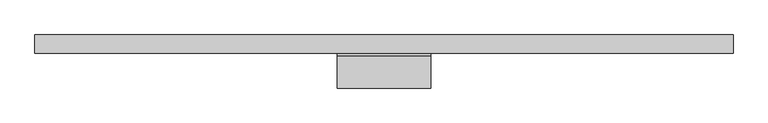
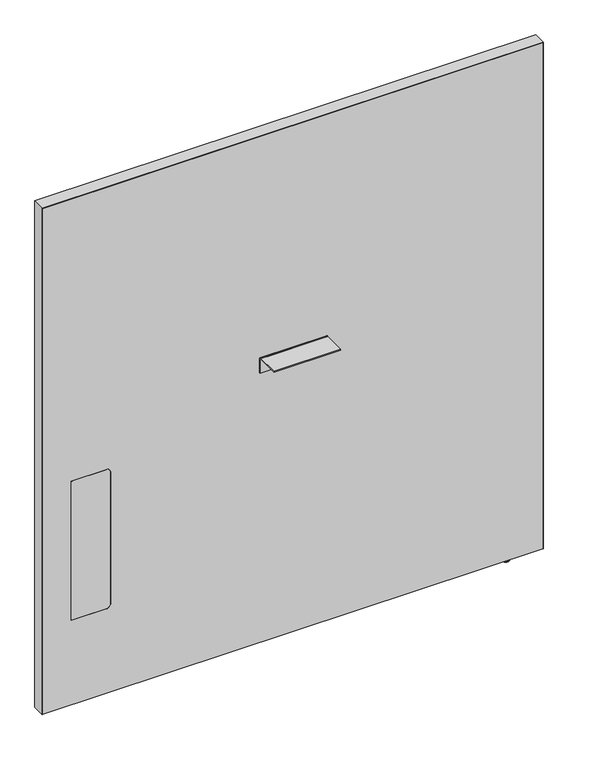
"""IFC4 building model written with IfcOpenShell, lengths in millimetres: furniture geometry, Steelcase - Answer Solution - Boundary Screen - Straight - Single Sided : 48H x 45W."""

from ifc_helpers import new_model, si_unit, point, frame, frame_2d, origin, place, context, project, spatial, polyline, circle_curve, ellipse_curve, trimmed, segment, composite_curve, outline, extrude, source, transform, mapped, element, save
from ifc_brep_helpers import plane_surface, cylinder_surface, revolved_surface, advanced_brep


def furniture_494dc55a(model_context):
    return source(origin(), model_context, "Body", "SolidModel", [
        extrude(outline(composite_curve([segment(polyline([(-86.8398151, 696.4680019), (-86.8398151, 698.5), (-34.9450855, 698.5)]), True, "CONTINUOUS"), segment(trimmed(circle_curve(frame_2d((-34.9450855, 693.2447477)), 5.2552523), [point((-34.9450855, 698.5))], [point((-29.6898332, 693.2447477))], False, "CARTESIAN"), True, "CONTINUOUS"), segment(polyline([(-29.6898332, 693.2447477), (-29.6898332, 660.4), (-31.7218162, 660.4), (-31.7218162, 693.0058743)]), True, "CONTINUOUS"), segment(trimmed(circle_curve(frame_2d((-35.1839438, 693.0058743)), 3.4621276), [point((-31.7218162, 693.0058743))], [point((-35.1839438, 696.4680019))], True, "CARTESIAN"), True, "CONTINUOUS"), segment(polyline([(-35.1839438, 696.4680019), (-86.8398151, 696.4680019)]), True, "CONTINUOUS")], self_intersect=False)), frame((-151.1808593, 0.0, 0.0), z_axis=(1.0, 0.0, 0.0), x_axis=(0.0, 1.0, 0.0)), (0.0, 0.0, 1.0), 152.4000969),
        advanced_brep(
        [(419.3286488, -23.7588726, 9.9059849), (419.3286488, -5.9309607, 9.9059849), (419.3286488, -14.8449166, 9.9059849), (419.3286488, -23.7588726, 2.9673238), (419.3286488, -5.9309607, 2.9673238), (419.3286488, -22.7915354, 2.9673238), (419.3286488, -6.8982978, 2.9673238), (419.3286488, -22.7915354, 1.6569081), (419.3286488, -6.8982978, 1.6569081), (419.3286488, -21.1346274, 0.0), (419.3286488, -8.5552059, 0.0), (419.3286488, -14.8449166, 0.0)],
        [
            (0, 1, circle_curve(frame((419.3286488, -14.8449166, 9.9059849), z_axis=(0.0, 0.0, 1.0), x_axis=(0.0, 1.0, 0.0)), 8.913956)),
            (1, 2),
            (2, 0),
            (1, 0, circle_curve(frame((419.3286488, -14.8449166, 9.9059849), z_axis=(0.0, 0.0, 1.0), x_axis=(0.0, 1.0, 0.0)), 8.913956)),
            (3, 4, circle_curve(frame((419.3286488, -14.8449166, 2.9673238), z_axis=(0.0, 0.0, 1.0), x_axis=(0.0, 1.0, 0.0)), 8.913956)),
            (4, 1),
            (0, 3),
            (4, 3, circle_curve(frame((419.3286488, -14.8449166, 2.9673238), z_axis=(0.0, 0.0, 1.0), x_axis=(0.0, 1.0, 0.0)), 8.913956)),
            (5, 6, circle_curve(frame((419.3286488, -14.8449166, 2.9673238), z_axis=(0.0, 0.0, 1.0), x_axis=(0.0, 1.0, 0.0)), 7.9466188)),
            (6, 4),
            (3, 5),
            (6, 5, circle_curve(frame((419.3286488, -14.8449166, 2.9673238), z_axis=(0.0, 0.0, 1.0), x_axis=(0.0, 1.0, 0.0)), 7.9466188)),
            (7, 8, circle_curve(frame((419.3286488, -14.8449166, 1.6569081), z_axis=(0.0, 0.0, 1.0), x_axis=(0.0, 1.0, 0.0)), 7.9466188)),
            (8, 6),
            (5, 7),
            (8, 7, circle_curve(frame((419.3286488, -14.8449166, 1.6569081), z_axis=(0.0, 0.0, 1.0), x_axis=(0.0, 1.0, 0.0)), 7.9466188)),
            (9, 10, circle_curve(frame((419.3286488, -14.8449166, 0.0), z_axis=(0.0, 0.0, 1.0), x_axis=(0.0, 1.0, 0.0)), 6.2897107)),
            (10, 8, circle_curve(frame((419.3286488, -8.5552059, 1.6569081), z_axis=(1.0, 0.0, 0.0), x_axis=(0.0, 1.0, 0.0)), 1.6569081)),
            (7, 9, circle_curve(frame((419.3286488, -21.1346274, 1.6569081), z_axis=(1.0, 0.0, 0.0), x_axis=(0.0, -1.0, 0.0)), 1.6569081)),
            (10, 9, circle_curve(frame((419.3286488, -14.8449166, 0.0), z_axis=(0.0, 0.0, 1.0), x_axis=(0.0, 1.0, 0.0)), 6.2897107)),
            (11, 10),
            (9, 11),
        ],
        [
            plane_surface(frame((419.3286488, -14.8449166, 9.9059849), z_axis=(0.0, 0.0, 1.0), x_axis=(0.0, 1.0, 0.0))),
            cylinder_surface(frame((419.3286488, -14.8449166, 9.9059849), z_axis=(0.0, 0.0, -1.0), x_axis=(0.0, 1.0, 0.0)), 8.913956),
            plane_surface(frame((419.3286488, -14.8449166, 2.9673238), z_axis=(0.0, 0.0, -1.0), x_axis=(0.0, 1.0, 0.0))),
            cylinder_surface(frame((419.3286488, -14.8449166, 9.9059849), z_axis=(0.0, 0.0, -1.0), x_axis=(0.0, 1.0, 0.0)), 7.9466188),
            revolved_surface(trimmed(ellipse_curve(frame((419.3286488, -8.5552059, 1.6569081), z_axis=(-1.0, 0.0, 0.0), x_axis=(0.0, 1.0, 0.0)), 1.6569081, 1.6569081), [point((419.3286488, -6.8982978, 1.6569081))], [point((419.3286488, -8.5552059, 0.0))], True, "CARTESIAN"), (419.3286488, -14.8449166, 9.9059849), (0.0, 0.0, -1.0)),
            plane_surface(frame((419.3286488, -14.8449166, 0.0), z_axis=(0.0, 0.0, -1.0), x_axis=(0.0, 1.0, 0.0))),
        ],
        [
            (0, [[1, 2, 3]]),
            (0, [[4, -3, -2]]),
            (1, [[5, 6, -1, 7]]),
            (1, [[8, -7, -4, -6]]),
            (2, [[9, 10, -5, 11]]),
            (2, [[12, -11, -8, -10]]),
            (3, [[13, 14, -9, 15]]),
            (3, [[16, -15, -12, -14]]),
            (4, [[17, 18, -13, 19]]),
            (4, [[20, -19, -16, -18]]),
            (5, [[21, -17, 22]]),
            (5, [[-22, -20, -21]]),
        ],
    ),
        advanced_brep(
        [(495.4780168, 0.0, 1229.142118), (495.4780168, 0.0, 9.9059849), (-645.4902221, 0.0, 9.9059849), (-645.4902221, 0.0, 1229.142118), (495.4780168, -29.6898332, 1229.142118), (-645.4902221, -29.6898332, 1229.142118), (-645.4902221, -29.6898332, 9.9059849), (495.4780168, -29.6898332, 9.9059849), (-501.1463873, -29.6898332, 549.6162029), (-490.9863873, -29.6898332, 539.4562029), (-490.9863873, -29.6898332, 223.9362137), (-501.1463873, -29.6898332, 213.7762137), (-580.800285, -29.6898332, 213.7762137), (-580.800285, -29.6898332, 549.6162029), (-580.800285, -29.0550397, 549.6162029), (-501.1463873, -29.0550397, 549.6162029), (-580.800285, -29.0550397, 213.7762137), (-501.1463873, -29.0550397, 213.7762137), (-490.9863873, -29.0550397, 223.9362137), (-490.9863873, -29.0550397, 539.4562029)],
        [
            (0, 1),
            (1, 2),
            (2, 3),
            (3, 0),
            (4, 5),
            (5, 6),
            (6, 7),
            (7, 4),
            (8, 9, circle_curve(frame((-501.1463873, -29.6898332, 539.4562029), z_axis=(0.0, 1.0, 0.0), x_axis=(0.0, 0.0, 1.0)), 10.16)),
            (9, 10),
            (10, 11, circle_curve(frame((-501.1463873, -29.6898332, 223.9362137), z_axis=(0.0, 1.0, 0.0), x_axis=(0.0, 0.0, 1.0)), 10.16)),
            (11, 12),
            (12, 13),
            (13, 8),
            (0, 4),
            (7, 1),
            (6, 2),
            (5, 3),
            (13, 14),
            (14, 15),
            (15, 8),
            (12, 16),
            (16, 14),
            (11, 17),
            (17, 16),
            (10, 18),
            (18, 17, circle_curve(frame((-501.1463873, -29.0550397, 223.9362137), z_axis=(0.0, 1.0, 0.0), x_axis=(0.0, 0.0, 1.0)), 10.16)),
            (9, 19),
            (19, 18),
            (15, 19, circle_curve(frame((-501.1463873, -29.0550397, 539.4562029), z_axis=(0.0, 1.0, 0.0), x_axis=(0.0, 0.0, 1.0)), 10.16)),
        ],
        [
            plane_surface(frame((495.4780168, 0.0, 1229.142118), z_axis=(0.0, 1.0, 0.0), x_axis=(0.0, 0.0, -1.0))),
            plane_surface(frame((495.4780168, -29.6898332, 1229.142118), z_axis=(0.0, -1.0, 0.0), x_axis=(0.0, 0.0, 1.0))),
            plane_surface(frame((495.4780168, 0.0, 1229.142118), z_axis=(1.0, 0.0, 0.0), x_axis=(0.0, -1.0, 0.0))),
            plane_surface(frame((495.4780168, 0.0, 9.9059849), z_axis=(0.0, 0.0, -1.0), x_axis=(0.0, -1.0, 0.0))),
            plane_surface(frame((-645.4902221, 0.0, 9.9059849), z_axis=(-1.0, 0.0, 0.0), x_axis=(0.0, -1.0, 0.0))),
            plane_surface(frame((-645.4902221, 0.0, 1229.142118), z_axis=(0.0, 0.0, 1.0), x_axis=(0.0, -1.0, 0.0))),
            plane_surface(frame((-501.1463873, 0.0, 549.6162029), z_axis=(0.0, 0.0, -1.0), x_axis=(0.0, -1.0, 0.0))),
            plane_surface(frame((-580.800285, 0.0, 549.6162029), z_axis=(1.0, 0.0, 0.0), x_axis=(0.0, -1.0, 0.0))),
            plane_surface(frame((-580.800285, 0.0, 213.7762137), z_axis=(0.0, 0.0, 1.0), x_axis=(0.0, -1.0, 0.0))),
            revolved_surface(polyline([(-501.1463873, -29.6898332, 234.0962137), (-501.1463873, -29.0550397, 234.0962137)]), (-501.1463873, -29.6898332, 223.9362137), (0.0, -1.0, 0.0)),
            plane_surface(frame((-490.9863873, 0.0, 223.9362137), z_axis=(-1.0, 0.0, 0.0), x_axis=(0.0, -1.0, 0.0))),
            revolved_surface(polyline([(-501.1463873, -29.6898332, 549.6162029), (-501.1463873, -29.0550397, 549.6162029)]), (-501.1463873, -29.6898332, 539.4562029), (0.0, -1.0, 0.0)),
            plane_surface(frame((-490.9863873, -29.0550397, 629.172953), z_axis=(0.0, -1.0, 0.0), x_axis=(0.0, 0.0, 1.0))),
        ],
        [
            (0, [[1, 2, 3, 4]]),
            (1, [[5, 6, 7, 8], [9, 10, 11, 12, 13, 14]]),
            (2, [[-1, 15, -8, 16]]),
            (3, [[-2, -16, -7, 17]]),
            (4, [[-3, -17, -6, 18]]),
            (5, [[-4, -18, -5, -15]]),
            (6, [[-14, 19, 20, 21]]),
            (7, [[-13, 22, 23, -19]]),
            (8, [[-12, 24, 25, -22]]),
            (9, [[-11, 26, 27, -24]]),
            (10, [[-10, 28, 29, -26]]),
            (11, [[-9, -21, 30, -28]]),
            (12, [[-20, -23, -25, -27, -29, -30]]),
        ],
    ),
        extrude(outline(composite_curve([segment(polyline([(549.6162029, -501.1463873), (549.6162029, -580.800285), (213.7762137, -580.800285), (213.7762137, -501.1463873)]), True, "CONTINUOUS"), segment(trimmed(circle_curve(frame_2d((223.9362137, -501.1463873)), 10.16), [point((213.7762137, -501.1463873))], [point((223.9362137, -490.9863873))], False, "CARTESIAN"), True, "CONTINUOUS"), segment(polyline([(223.9362137, -490.9863873), (539.4562029, -490.9863873)]), True, "CONTINUOUS"), segment(trimmed(circle_curve(frame_2d((539.4562029, -501.1463873)), 10.16), [point((539.4562029, -490.9863873))], [point((549.6162029, -501.1463873))], False, "CARTESIAN"), True, "CONTINUOUS")], self_intersect=False)), frame((0.0, -29.6898332, 0.0), z_axis=(0.0, 1.0, 0.0), x_axis=(0.0, 0.0, 1.0)), (0.0, 0.0, 1.0), 0.6347935),
        extrude(outline(polyline([(1230.122, 496.5191891), (1230.122, -646.4808109), (9.9059849, -646.4808109), (9.9059849, -645.4902221), (1229.142118, -645.4902221), (1229.142118, 495.4780168), (9.9059849, 495.4780168), (9.9059849, 496.5191891), (1230.122, 496.5191891)])), frame((0.0, -29.6898332, 0.0), z_axis=(0.0, 1.0, 0.0), x_axis=(0.0, 0.0, 1.0)), (0.0, 0.0, 1.0), 29.6898332),
    ])


if __name__ == "__main__":
    model = new_model("IFC4")
    model_context = context("Model", 3, world=origin())
    ifc_project = project(units=[si_unit("LENGTHUNIT", "METRE", prefix="MILLI")], contexts=[model_context])
    site = spatial("IfcSite", under=ifc_project)
    building = spatial("IfcBuilding", under=site)
    placement = place(None, origin())
    furniture_shape = furniture_494dc55a(model_context)
    element("IfcFurniture", 1, ObjectType="Steelcase - Answer Solution - Boundary Screen - Straight - Single Sided : 48H x 45W", at=placement, inside=building, context=model_context, shape_type="MappedRepresentation", body=[
        mapped(furniture_shape, transform((0.0, 0.0, 0.0), x_axis=(1.0, 0.0, 0.0), y_axis=(0.0, 1.0, 0.0), z_axis=(0.0, 0.0, 1.0))),
    ])
    save(model, "model.ifc")
